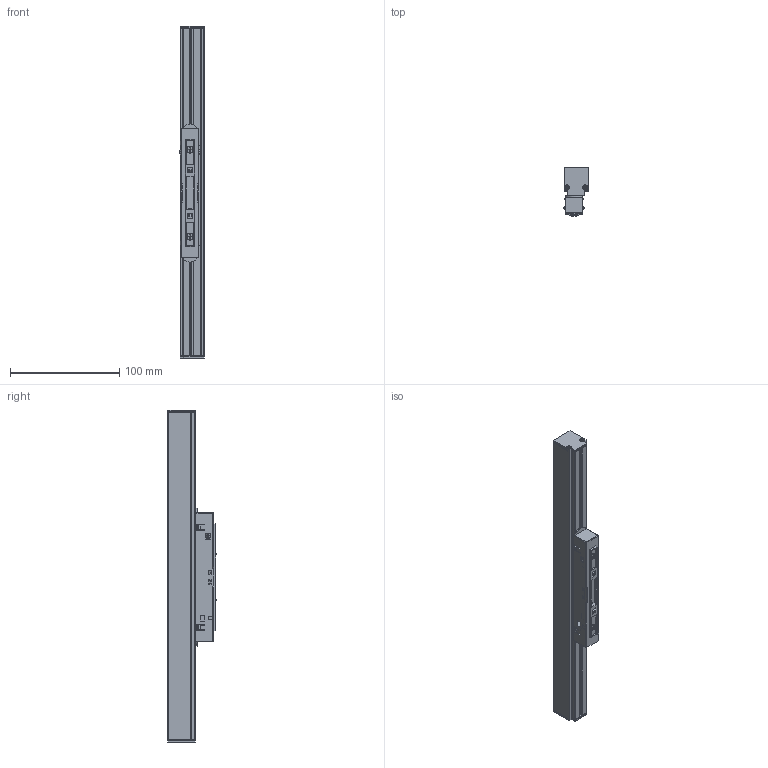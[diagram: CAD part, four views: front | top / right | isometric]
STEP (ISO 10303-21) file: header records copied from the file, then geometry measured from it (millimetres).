
FILE_DESCRIPTION (( 'STEP AP203' ), '1' );
FILE_NAME ('410098.STEP', '2021-10-29T01:57:20', ( '微软用户' ), ( '微软中国' ), 'SwSTEP 2.0', 'SolidWorks 2014', '' );
FILE_SCHEMA (( 'CONFIG_CONTROL_DESIGN' ));
Length unit declared in the file: millimetre
Products named in the file (19): DK-1_0406A_14_59_ASM; 臏價啣-410054; 08-20-PC1_6; 滓嫖黑芛ㄗ湍怢論ㄘ; MANIFOLD_SOLID_BREP_45179; PET毀嫖祧-300; MANIFOLD_SOLID_BREP_53625; 滓嫖醱欶-300; 08-22-W1_37_ASM; ｳﾁﾍｷﾊｮﾗﾖﾗﾔｹ･ﾂﾝﾋｿ M2.5X8; 03_X_T; MANIFOLD_SOLID_BREP_5134_2; 沉头十字自攻螺丝M3X6; MANIFOLD_SOLID_BREP_5136_8; 滓嫖腑极-300ㄗ湍怢論ㄘ; 20磁吸（无推钮）短款电源盒：GN-CX01-7-2; MANIFOLD_SOLID_BREP_41700; 黑芛掖蝶ㄗ湍怢論ㄘ; 410098
Assembly tree (25 placements, depth 4):
  410098
    滓嫖腑极-300ㄗ湍怢論ㄘ
    黑芛掖蝶ㄗ湍怢論ㄘ  x2
    臏價啣-410054
    滓嫖黑芛ㄗ湍怢論ㄘ  x2
    PET毀嫖祧-300  x2
    滓嫖醱欶-300
    ｳﾁﾍｷﾊｮﾗﾖﾗﾔｹ･ﾂﾝﾋｿ M2.5X8  x4
    20磁吸（无推钮）短款电源盒：GN-CX01-7-2
      MANIFOLD_SOLID_BREP_5134_2
      MANIFOLD_SOLID_BREP_5136_8
      DK-1_0406A_14_59_ASM
        MANIFOLD_SOLID_BREP_41700
      08-20-PC1_6
      08-22-W1_37_ASM
        MANIFOLD_SOLID_BREP_45179
        MANIFOLD_SOLID_BREP_53625
      03_X_T
      沉头十字自攻螺丝M3X6  x2
Bounding box: 22.11 x 44.2 x 304.4 mm (x, y, z)
Volume: 76490.8 mm3; surface area: 119017.9 mm2
Topology: 21 solids, 23 shells, 1797 faces, 4768 edges, 3122 vertices
Faces by surface type: plane 1348, cylinder 329, cone 60, bspline 60
Entity records: 56196 total; most frequent: CARTESIAN_POINT 13079, ORIENTED_EDGE 8826, DIRECTION 7779, EDGE_CURVE 4416, LINE 3615, VECTOR 3615, VERTEX_POINT 2909, AXIS2_PLACEMENT_3D 2082
